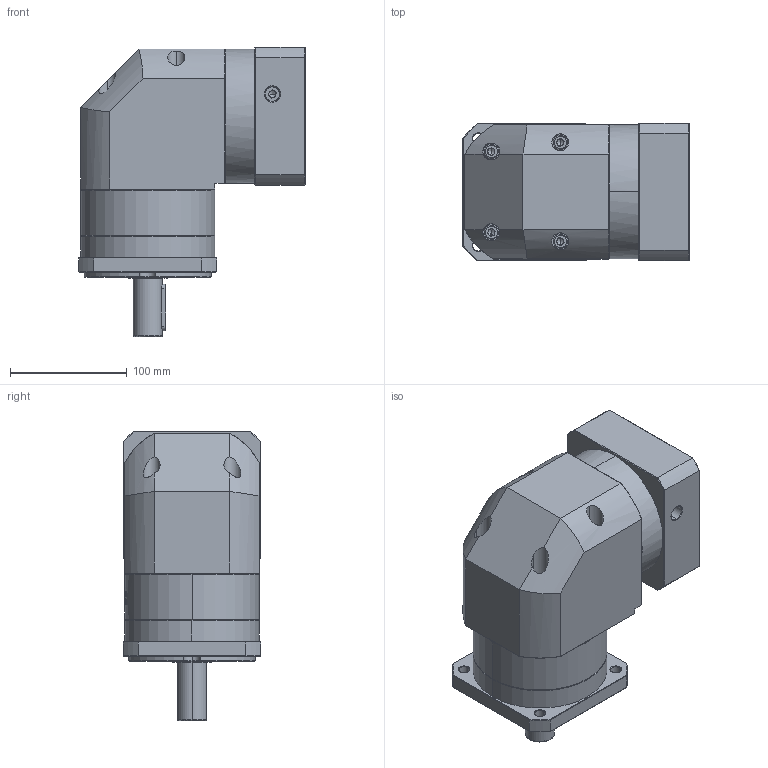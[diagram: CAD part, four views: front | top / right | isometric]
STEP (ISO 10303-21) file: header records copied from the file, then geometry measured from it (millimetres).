
FILE_DESCRIPTION (( 'STEP AP214' ), '1' );
FILE_NAME ('ZFR120A-D25-L1-P2-24-95-130-M8.step', '2023-08-27T08:02:17', ( '' ), ( '' ), 'SwSTEP 2.0', 'SolidWorks 2016', '' );
FILE_SCHEMA (( 'AUTOMOTIVE_DESIGN' ));
Length unit declared in the file: millimetre
Products named in the file (1): ZFR120A-D25-L1-P2-24-95-130-M8
Bounding box: 193.9 x 118 x 248 mm (x, y, z)
Volume: 2893981 mm3; surface area: 243425.6 mm2
Topology: 6 solids, 6 shells, 2265 faces, 5983 edges, 3823 vertices
Faces by surface type: plane 1061, cylinder 434, bspline 424, cone 338, torus 8
Entity records: 124148 total; most frequent: CARTESIAN_POINT 48698, ORIENTED_EDGE 11906, DIRECTION 8636, EDGE_CURVE 5953, VERTEX_POINT 3823, LINE 3160, VECTOR 3160, AXIS2_PLACEMENT_3D 2738
